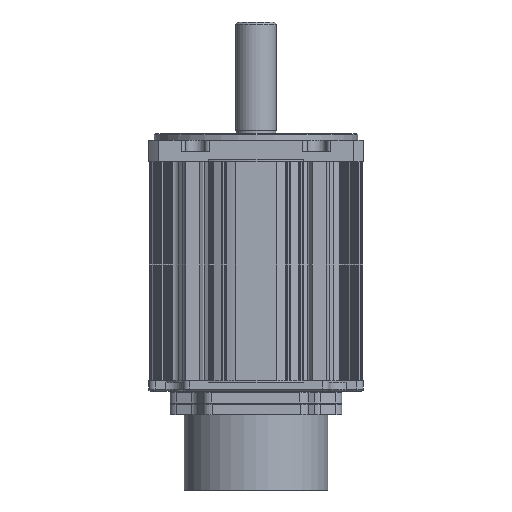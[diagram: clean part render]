
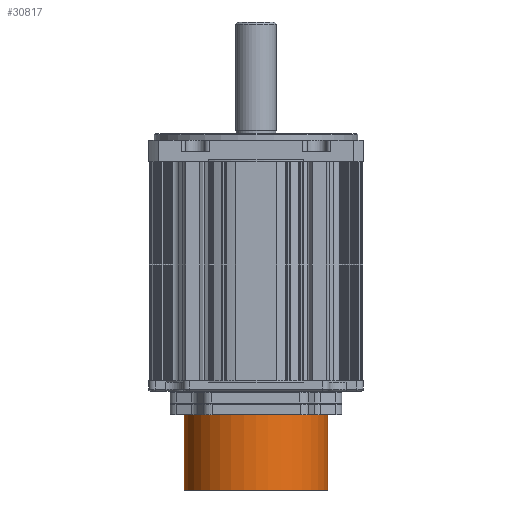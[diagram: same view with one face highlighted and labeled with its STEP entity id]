
A CAD part, front view. The second image highlights one B-rep face of the part: STEP entity #30817.
In plain terms, the highlighted cylindrical face has radius 33.5 mm (diameter 67 mm), a partial arc.
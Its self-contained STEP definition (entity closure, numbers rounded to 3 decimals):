
#2505 = CARTESIAN_POINT ( 'NONE',  ( 0., 0., 0. ) ) ;
#5162 = CIRCLE ( 'NONE', #17261, 33.5 ) ;
#5722 = DIRECTION ( 'NONE',  ( 1., 0., 0. ) ) ;
#7630 = VERTEX_POINT ( 'NONE', #37443 ) ;
#8829 = DIRECTION ( 'NONE',  ( 0., 0., 1. ) ) ;
#8908 = ORIENTED_EDGE ( 'NONE', *, *, #18468, .F. ) ;
#9639 = EDGE_LOOP ( 'NONE', ( #11041, #37036, #25503, #8908 ) ) ;
#11041 = ORIENTED_EDGE ( 'NONE', *, *, #40678, .F. ) ;
#11200 = CIRCLE ( 'NONE', #49488, 33.5 ) ;
#15680 = LINE ( 'NONE', #42295, #20148 ) ;
#17261 = AXIS2_PLACEMENT_3D ( 'NONE', #21663, #17577, #31048 ) ;
#17577 = DIRECTION ( 'NONE',  ( 0., 0., 1. ) ) ;
#18468 = EDGE_CURVE ( 'NONE', #27676, #7630, #11200, .T. ) ;
#20148 = VECTOR ( 'NONE', #54888, 1000. ) ;
#21370 = CARTESIAN_POINT ( 'NONE',  ( 0., 0., -35. ) ) ;
#21663 = CARTESIAN_POINT ( 'NONE',  ( 0., 0., -35. ) ) ;
#22699 = CARTESIAN_POINT ( 'NONE',  ( 33.5, 0., -35. ) ) ;
#23210 = EDGE_CURVE ( 'NONE', #44280, #41183, #5162, .T. ) ;
#25503 = ORIENTED_EDGE ( 'NONE', *, *, #34459, .T. ) ;
#26472 = AXIS2_PLACEMENT_3D ( 'NONE', #21370, #57090, #47165 ) ;
#27514 = LINE ( 'NONE', #52985, #45994 ) ;
#27676 = VERTEX_POINT ( 'NONE', #34733 ) ;
#29613 = CYLINDRICAL_SURFACE ( 'NONE', #26472, 33.5 ) ;
#30179 = FACE_OUTER_BOUND ( 'NONE', #9639, .T. ) ;
#30817 = ADVANCED_FACE ( 'NONE', ( #30179 ), #29613, .T. ) ;
#31048 = DIRECTION ( 'NONE',  ( 1., 0., 0. ) ) ;
#34459 = EDGE_CURVE ( 'NONE', #41183, #7630, #15680, .T. ) ;
#34600 = CARTESIAN_POINT ( 'NONE',  ( -33.5, 0., -35. ) ) ;
#34733 = CARTESIAN_POINT ( 'NONE',  ( -33.5, 0., 0. ) ) ;
#37036 = ORIENTED_EDGE ( 'NONE', *, *, #23210, .T. ) ;
#37286 = DIRECTION ( 'NONE',  ( 0., 0., 1. ) ) ;
#37443 = CARTESIAN_POINT ( 'NONE',  ( 33.5, 0., 0. ) ) ;
#40678 = EDGE_CURVE ( 'NONE', #44280, #27676, #27514, .T. ) ;
#41183 = VERTEX_POINT ( 'NONE', #22699 ) ;
#42295 = CARTESIAN_POINT ( 'NONE',  ( 33.5, 0., -35. ) ) ;
#44280 = VERTEX_POINT ( 'NONE', #34600 ) ;
#45994 = VECTOR ( 'NONE', #8829, 1000. ) ;
#47165 = DIRECTION ( 'NONE',  ( 1., 0., 0. ) ) ;
#49488 = AXIS2_PLACEMENT_3D ( 'NONE', #2505, #37286, #5722 ) ;
#52985 = CARTESIAN_POINT ( 'NONE',  ( -33.5, 0., -35. ) ) ;
#54888 = DIRECTION ( 'NONE',  ( 0., 0., 1. ) ) ;
#57090 = DIRECTION ( 'NONE',  ( 0., 0., 1. ) ) ;
